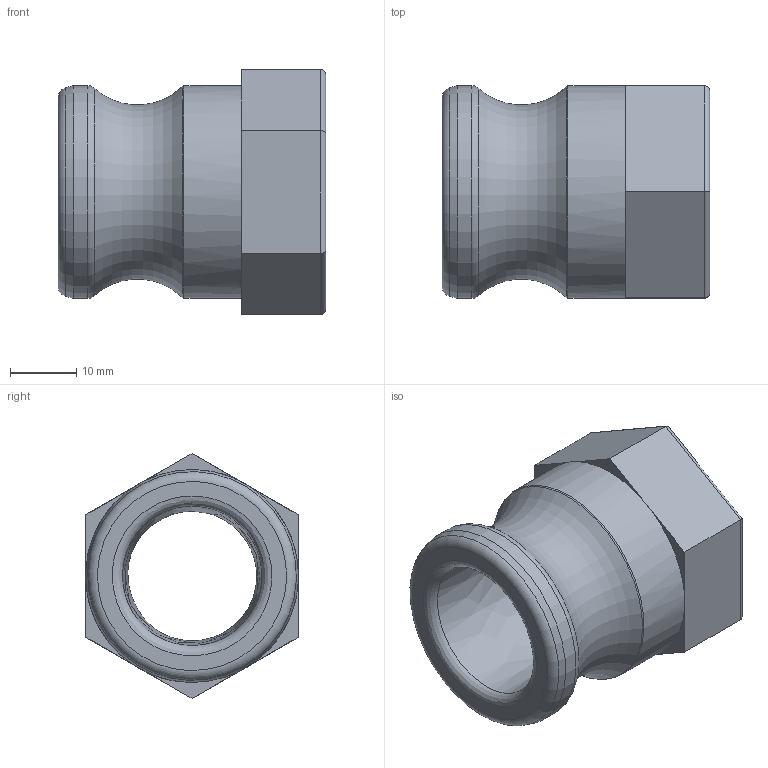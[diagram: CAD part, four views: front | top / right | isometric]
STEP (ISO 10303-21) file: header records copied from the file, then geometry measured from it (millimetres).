
FILE_DESCRIPTION(/* description */ ('Alibre Inc.'),/* implementation_level */ '2;1');
FILE_NAME(/* name */ 'export0',/* time_stamp */ '2015-12-29T12:53:14-05:00',/* author */ (''),/* organization */ (''),/* preprocessor_version */ 'ST-DEVELOPER v14',/* originating_system */ 'Alibre',/* authorisation */ '');
FILE_SCHEMA (('CONFIG_CONTROL_DESIGN'));
Length unit declared in the file: centimetre
Products named in the file (1): ID_1
Bounding box: 40.39 x 32.1 x 36.95 mm (x, y, z)
Volume: 14777.5 mm3; surface area: 8791.2 mm2
Topology: 1 solids, 1 shells, 70 faces, 177 edges, 110 vertices
Faces by surface type: cone 31, plane 20, cylinder 9, bspline 7, torus 3
Full cylindrical faces by diameter (mm): 19.558 x1, 32.106 x2
Entity records: 24048 total; most frequent: CARTESIAN_POINT 22562, ORIENTED_EDGE 334, DIRECTION 205, EDGE_CURVE 167, VERTEX_POINT 108, AXIS2_PLACEMENT_3D 84, EDGE_LOOP 81, FACE_BOUND 81
